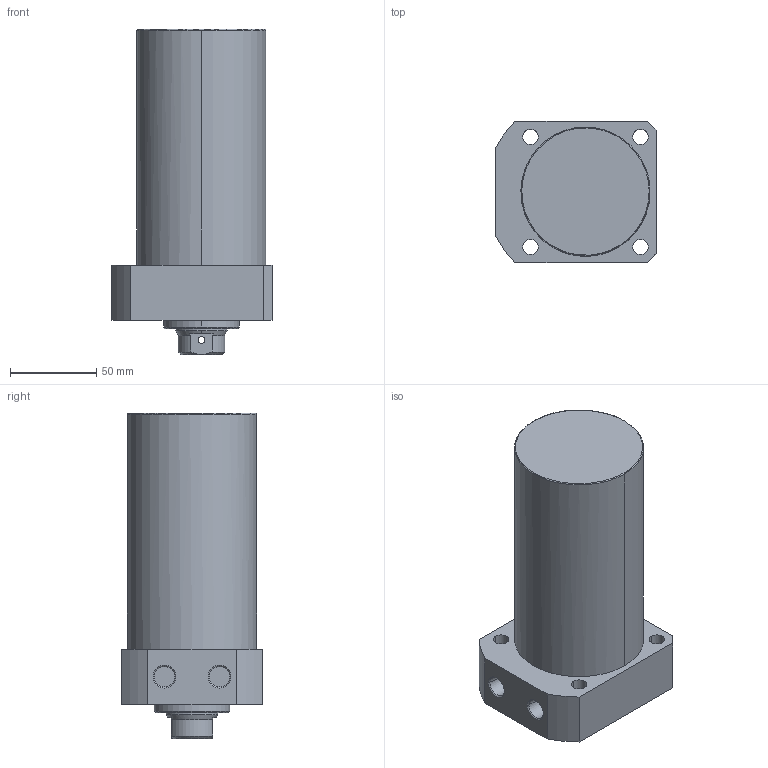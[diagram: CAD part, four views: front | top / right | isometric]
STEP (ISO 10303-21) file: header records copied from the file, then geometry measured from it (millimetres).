
FILE_DESCRIPTION((' '),'2;1');
FILE_NAME( 'TLLR-075CB-100.STEP.stp', '2025-10-24T16:35:08', (' '), ('--- Datakit www.datakit.com---'), ' Datakit CrossCadWare V2024.1 Dec 21 2023', 'Mastercam 2025', ' ');
FILE_SCHEMA(('AUTOMOTIVE_DESIGN { 1 0 10303 214 1 1 1 1 }'));
Length unit declared in the file: millimetre
Products named in the file (1): TLLR-075CB-100
Bounding box: 93 x 82 x 189 mm (x, y, z)
Volume: 840220.2 mm3; surface area: 66019.9 mm2
Topology: 1 solids, 1 shells, 67 faces, 197 edges, 136 vertices
Faces by surface type: cylinder 32, plane 19, cone 14, torus 2
Entity records: 3386 total; most frequent: CARTESIAN_POINT 1467, DIRECTION 426, ORIENTED_EDGE 390, EDGE_CURVE 195, AXIS2_PLACEMENT_3D 179, VERTEX_POINT 136, CIRCLE 111, EDGE_LOOP 85
